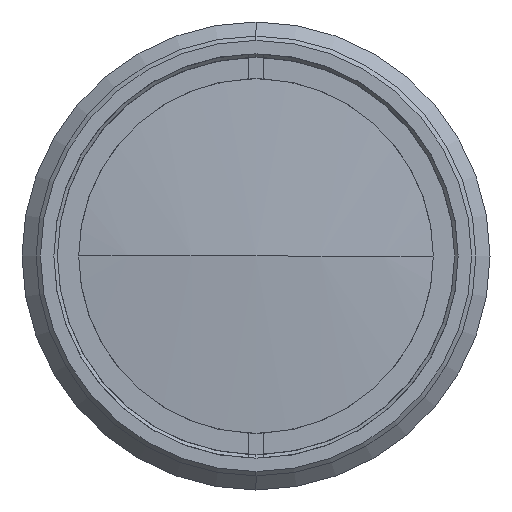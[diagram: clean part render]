
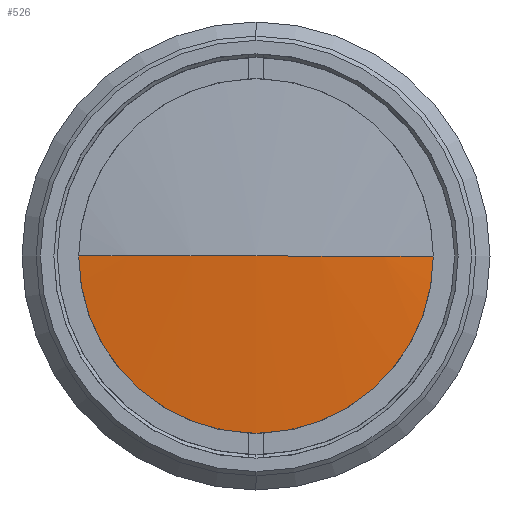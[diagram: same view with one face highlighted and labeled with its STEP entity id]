
A CAD part, left-side view. The second image highlights one B-rep face of the part: STEP entity #526.
In plain terms, the highlighted spherical face has radius 105 mm.
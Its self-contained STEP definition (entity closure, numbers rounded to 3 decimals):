
#178 = VERTEX_POINT ( 'NONE', #5041 ) ;
#262 = CARTESIAN_POINT ( 'NONE',  ( 0.871, 13.5, 0. ) ) ;
#369 = AXIS2_PLACEMENT_3D ( 'NONE', #2646, #921, #1797 ) ;
#435 = VERTEX_POINT ( 'NONE', #262 ) ;
#526 = ADVANCED_FACE ( 'NONE', ( #4118 ), #814, .T. ) ;
#591 = ORIENTED_EDGE ( 'NONE', *, *, #1141, .T. ) ;
#722 = CIRCLE ( 'NONE', #369, 13.5 ) ;
#774 = DIRECTION ( 'NONE',  ( 0., 0., -1. ) ) ;
#814 = SPHERICAL_SURFACE ( 'NONE', #1431, 105. ) ;
#874 = EDGE_CURVE ( 'NONE', #3209, #4735, #2029, .T. ) ;
#921 = DIRECTION ( 'NONE',  ( -1., 0., 0. ) ) ;
#1015 = CARTESIAN_POINT ( 'NONE',  ( 0., 0., 0. ) ) ;
#1141 = EDGE_CURVE ( 'NONE', #178, #3209, #722, .T. ) ;
#1431 = AXIS2_PLACEMENT_3D ( 'NONE', #3316, #3761, #2507 ) ;
#1567 = AXIS2_PLACEMENT_3D ( 'NONE', #3877, #4377, #1825 ) ;
#1734 = EDGE_CURVE ( 'NONE', #435, #178, #2060, .T. ) ;
#1797 = DIRECTION ( 'NONE',  ( 0., 0., 1. ) ) ;
#1825 = DIRECTION ( 'NONE',  ( 1., 0., 0. ) ) ;
#2029 = CIRCLE ( 'NONE', #5130, 105. ) ;
#2060 = CIRCLE ( 'NONE', #2659, 13.5 ) ;
#2245 = CARTESIAN_POINT ( 'NONE',  ( 0.871, 0., 0. ) ) ;
#2468 = DIRECTION ( 'NONE',  ( 0., 1., 0. ) ) ;
#2507 = DIRECTION ( 'NONE',  ( 0., 1., 0. ) ) ;
#2588 = CARTESIAN_POINT ( 'NONE',  ( 0.871, -13.5, 0. ) ) ;
#2646 = CARTESIAN_POINT ( 'NONE',  ( 0.871, 0., 0. ) ) ;
#2659 = AXIS2_PLACEMENT_3D ( 'NONE', #2245, #3018, #3068 ) ;
#2909 = ORIENTED_EDGE ( 'NONE', *, *, #1734, .T. ) ;
#3018 = DIRECTION ( 'NONE',  ( -1., 0., 0. ) ) ;
#3068 = DIRECTION ( 'NONE',  ( 0., 0., 1. ) ) ;
#3209 = VERTEX_POINT ( 'NONE', #2588 ) ;
#3316 = CARTESIAN_POINT ( 'NONE',  ( 105., 0., 0. ) ) ;
#3413 = ORIENTED_EDGE ( 'NONE', *, *, #4724, .F. ) ;
#3511 = CIRCLE ( 'NONE', #1567, 105. ) ;
#3526 = ORIENTED_EDGE ( 'NONE', *, *, #874, .T. ) ;
#3761 = DIRECTION ( 'NONE',  ( 0., 0., -1. ) ) ;
#3877 = CARTESIAN_POINT ( 'NONE',  ( 105., 0., 0. ) ) ;
#4118 = FACE_OUTER_BOUND ( 'NONE', #5245, .T. ) ;
#4377 = DIRECTION ( 'NONE',  ( 0., 0., 1. ) ) ;
#4583 = CARTESIAN_POINT ( 'NONE',  ( 105., 0., 0. ) ) ;
#4724 = EDGE_CURVE ( 'NONE', #435, #4735, #3511, .T. ) ;
#4735 = VERTEX_POINT ( 'NONE', #1015 ) ;
#5041 = CARTESIAN_POINT ( 'NONE',  ( 0.871, 0., -13.5 ) ) ;
#5130 = AXIS2_PLACEMENT_3D ( 'NONE', #4583, #774, #2468 ) ;
#5245 = EDGE_LOOP ( 'NONE', ( #591, #3526, #3413, #2909 ) ) ;
